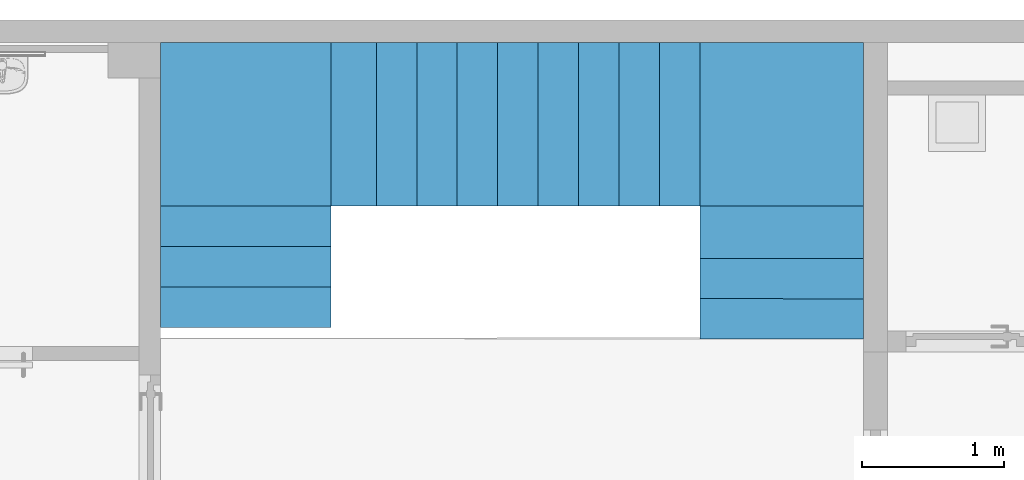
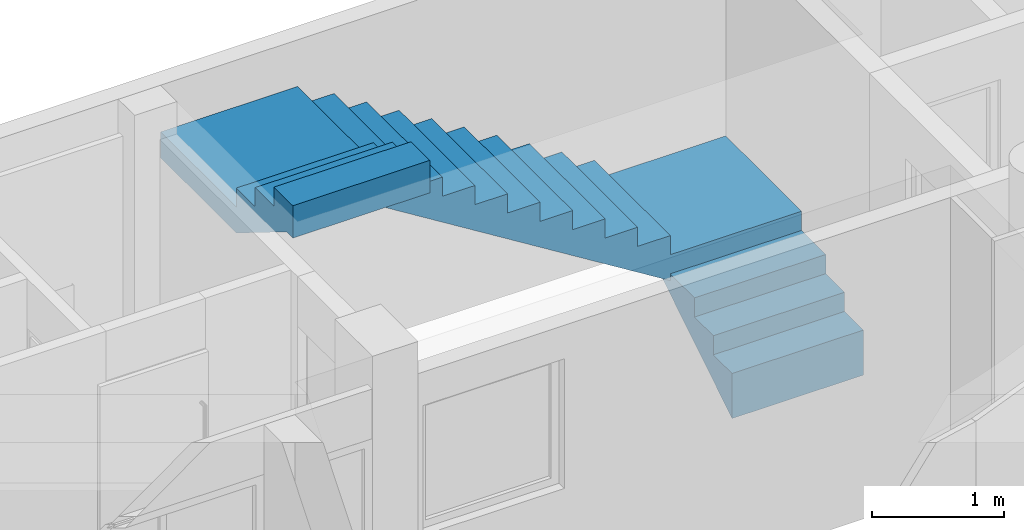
"""IFC4 building model written with IfcOpenShell, lengths in metres."""

import ifcopenshell
import ifcopenshell.guid

model = None  # the IFC model being written
_history = None  # IfcOwnerHistory: only IFC2X3 demands one
_inside = {}  # id of a spatial element -> (the spatial element, [elements in it])
_under = {}  # id of a project, library or spatial element -> (it, [spatial elements below it])
_declared = {}  # id of a project -> (the project, [libraries it declares])
_typed = {}  # id of a type object -> (the type object, [elements of that type])
_made_of = {}  # id of a material, layer set ... -> (it, [elements and type objects made of it])


def new_model(schema):
    """Start an empty IFC model of exactly this schema.

    Asked for "IFC4X3", IfcOpenShell would pick the latest addendum, in which some entities
    have other attributes; the version numbers below select the first issue.
    IFC2X3 requires an IfcOwnerHistory on every rooted entity: one is made here for all.
    """
    global model, _history
    if schema == "IFC4X3":
        model = ifcopenshell.file(schema_version=(4, 3, 0, 0))
    else:
        model = ifcopenshell.file(schema=schema)
    _inside.clear()
    _under.clear()
    _declared.clear()
    _typed.clear()
    _made_of.clear()
    _history = None
    if model.schema == "IFC2X3":
        org = make("IfcOrganization", Name="unknown")
        user = make(
            "IfcPersonAndOrganization",
            ThePerson=make("IfcPerson", FamilyName="unknown"),
            TheOrganization=org,
        )
        app = make(
            "IfcApplication",
            ApplicationDeveloper=org,
            Version="unknown",
            ApplicationFullName="unknown",
            ApplicationIdentifier="unknown",
        )
        _history = make(
            "IfcOwnerHistory",
            OwningUser=user,
            OwningApplication=app,
            ChangeAction="ADDED",
            CreationDate=0,
        )
    return model


def make(cls, **values):
    """One entity of the class cls with the attributes given. An attribute that is None is left unset."""
    return model.create_entity(
        cls, **{name: value for name, value in values.items() if value is not None}
    )


def entity(cls, *values):
    """Any entity or typed value of the class cls, its attributes in the order of the schema. None: left unset."""
    e = model.create_entity(cls)
    for i, value in enumerate(values):
        if value is not None:
            e[i] = value
    return e


def rooted(cls, **values):
    """An entity with a GlobalId (a new one), such as an element, a storey or a relation."""
    return make(cls, GlobalId=ifcopenshell.guid.new(), OwnerHistory=_history, **values)


def si_unit(unit_type, name, prefix=None):
    """IfcSIUnit, for example si_unit("LENGTHUNIT", "METRE", prefix="MILLI")."""
    return make("IfcSIUnit", UnitType=unit_type, Prefix=prefix, Name=name)


def converted_unit(unit_type, name, factor, base, dimensions=None, offset=None):
    """IfcConversionBasedUnit, such as the inch: factor (a typed value) times the base unit."""
    return make(
        "IfcConversionBasedUnit"
        if offset is None
        else "IfcConversionBasedUnitWithOffset",
        ConversionOffset=offset,
        Dimensions=None
        if dimensions is None
        else entity("IfcDimensionalExponents", *dimensions),
        UnitType=unit_type,
        Name=name,
        ConversionFactor=make(
            "IfcMeasureWithUnit", ValueComponent=factor, UnitComponent=base
        ),
    )


def derived_unit(unit_type, elements):
    """IfcDerivedUnit: a product of units, each with its exponent."""
    return make(
        "IfcDerivedUnit",
        Elements=[
            make("IfcDerivedUnitElement", Unit=unit, Exponent=power)
            for unit, power in elements
        ],
        UnitType=unit_type,
    )


def assignment(units):
    """IfcUnitAssignment: the units of a project."""
    return None if units is None else make("IfcUnitAssignment", Units=units)


def point(xyz):
    """IfcCartesianPoint."""
    return None if xyz is None else make("IfcCartesianPoint", Coordinates=xyz)


def direction(xyz):
    """IfcDirection."""
    return None if xyz is None else make("IfcDirection", DirectionRatios=xyz)


def frame(location, z_axis=None, x_axis=None):
    """IfcAxis2Placement3D, a coordinate frame: its origin and axes. An axis left out is left unset."""
    return make(
        "IfcAxis2Placement3D",
        Location=point(location),
        Axis=direction(z_axis),
        RefDirection=direction(x_axis),
    )


def origin():
    """The frame at (0, 0, 0) with its axes left unset."""
    return frame((0.0, 0.0, 0.0))


def place(relative_to, where):
    """IfcLocalPlacement: puts the frame where relative to a parent placement (None: the world)."""
    return make(
        "IfcLocalPlacement", PlacementRelTo=relative_to, RelativePlacement=where
    )


def context(
    kind, dimensions, precision=None, world=None, true_north=None, identifier=None
):
    """IfcGeometricRepresentationContext, for example the 3D "Model" context."""
    return make(
        "IfcGeometricRepresentationContext",
        ContextIdentifier=identifier,
        ContextType=kind,
        CoordinateSpaceDimension=dimensions,
        Precision=precision,
        WorldCoordinateSystem=world,
        TrueNorth=true_north,
    )


def subcontext(parent, identifier, kind, view, scale=None):
    """IfcGeometricRepresentationSubContext, for example "Body" below "Model"."""
    return make(
        "IfcGeometricRepresentationSubContext",
        ContextIdentifier=identifier,
        ContextType=kind,
        ParentContext=parent,
        TargetScale=scale,
        TargetView=view,
    )


def project(units=None, contexts=None):
    """IfcProject with its units and contexts."""
    return rooted(
        "IfcProject",
        Name="project",
        RepresentationContexts=contexts,
        UnitsInContext=assignment(units),
    )


def spatial(cls, under=None, at=None, **own):
    """A site, building, storey or space (cls), placed at a placement, below another one or the project."""
    s = rooted(cls, ObjectPlacement=at, **own)
    if under is not None:
        _under.setdefault(under.id(), (under, []))[1].append(s)
    return s


def faces_of(points, faces, orient=None, outer=None):
    """IfcFace entities. A face is a list of loops; a loop is a list of indices into points, from 0.

    orient and outer hold one flag for each loop. By default every Orientation is true, the
    first loop of a face is its IfcFaceOuterBound and the others are IfcFaceBound.
    """
    made = []
    for i, loops in enumerate(faces):
        bounds = []
        for j, loop in enumerate(loops):
            is_outer = j == 0 if outer is None else outer[i][j]
            bounds.append(
                make(
                    "IfcFaceOuterBound" if is_outer else "IfcFaceBound",
                    Bound=make("IfcPolyLoop", Polygon=[points[k] for k in loop]),
                    Orientation=True if orient is None else orient[i][j],
                )
            )
        made.append(make("IfcFace", Bounds=bounds))
    return made


def faceted_brep(points, faces, orient=None, outer=None, voids=None):
    """IfcFacetedBrep: a solid bounded by flat faces; with voids (closed shells), ...WithVoids."""
    shared = [point(p) for p in points]
    hull = make("IfcClosedShell", CfsFaces=faces_of(shared, faces, orient, outer))
    if voids is None:
        return make("IfcFacetedBrep", Outer=hull)
    return make(
        "IfcFacetedBrepWithVoids",
        Outer=hull,
        Voids=[
            make(cls, CfsFaces=faces_of(shared, fs, o, b)) for cls, fs, o, b in voids
        ],
    )


def shape(context_of_items, identifier, shape_type, items):
    """IfcShapeRepresentation: the items that make up one representation, for example the "Body"."""
    return make(
        "IfcShapeRepresentation",
        ContextOfItems=context_of_items,
        RepresentationIdentifier=identifier,
        RepresentationType=shape_type,
        Items=items,
    )


def made_of(thing, what):
    """Note that an element or type object is made of a material, layer set ...; save() writes the relation."""
    if what is not None:
        _made_of.setdefault(what.id(), (what, []))[1].append(thing)
    return thing


def element(
    cls,
    number,
    at=None,
    inside=None,
    cuts=None,
    type_object=None,
    material=None,
    context=None,
    identifier="Body",
    shape_type=None,
    held_by="IfcProductDefinitionShape",
    body=None,
    shapes=None,
    **own,
):
    """One element of the class cls, such as IfcWall. Its Tag is "e" and its number.

    at: its placement. inside: the storey or other place that contains it. cuts: it is an
    opening in that element (IfcRelVoidsElement). A single representation is given by context,
    identifier, shape_type and body (its items); several are given by shapes. held_by: the class
    of the entity that holds the representations. save() writes the other relations.
    """
    e = rooted(cls, Tag="e%d" % number, ObjectPlacement=at, **own)
    if body is not None:
        shapes = [shape(context, identifier, shape_type, body)]
    if shapes is not None:
        e.Representation = make(held_by, Representations=shapes)
    if inside is not None:
        _inside.setdefault(inside.id(), (inside, []))[1].append(e)
    if cuts is not None:
        rooted(
            "IfcRelVoidsElement", RelatingBuildingElement=cuts, RelatedOpeningElement=e
        )
    if type_object is not None:
        _typed.setdefault(type_object.id(), (type_object, []))[1].append(e)
    return made_of(e, material)


def aggregate(whole, parts):
    """IfcRelAggregates: a whole, such as a stair, and the parts it consists of."""
    return rooted("IfcRelAggregates", RelatingObject=whole, RelatedObjects=parts)


def save(model, path):
    """Write the relations noted so far, then the file.

    IfcRelAggregates (storeys below a building ...), IfcRelContainedInSpatialStructure (elements
    in a storey), IfcRelDefinesByType, IfcRelAssociatesMaterial and IfcRelDeclares: one each for
    every whole, place, type object, material and project.
    """
    for whole, parts in _under.values():
        aggregate(whole, parts)
    for where, things in _inside.values():
        rooted(
            "IfcRelContainedInSpatialStructure",
            RelatedElements=things,
            RelatingStructure=where,
        )
    for kind, things in _typed.values():
        rooted("IfcRelDefinesByType", RelatedObjects=things, RelatingType=kind)
    for what, things in _made_of.values():
        rooted("IfcRelAssociatesMaterial", RelatedObjects=things, RelatingMaterial=what)
    for by, libraries in _declared.values():
        rooted("IfcRelDeclares", RelatingContext=by, RelatedDefinitions=libraries)
    model.write(path)


model = new_model("IFC4")

# Units and contexts
model_context = context("Model", 3, precision=1e-05, world=origin())
body_context = subcontext(model_context, "Body", "Model", "MODEL_VIEW")
ifc_project = project(units=[si_unit("LENGTHUNIT", "METRE"), si_unit("AREAUNIT", "SQUARE_METRE"), si_unit("VOLUMEUNIT", "CUBIC_METRE"), si_unit("MASSUNIT", "GRAM", prefix="KILO"), converted_unit("PLANEANGLEUNIT", "DEGREE", entity("IfcPlaneAngleMeasure", 0.0174532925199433), si_unit("PLANEANGLEUNIT", "RADIAN"), dimensions=[0, 0, 0, 0, 0, 0, 0]), derived_unit("THERMALTRANSMITTANCEUNIT", [(si_unit("POWERUNIT", "WATT"), 1), (si_unit("THERMODYNAMICTEMPERATUREUNIT", "KELVIN"), -1), (si_unit("LENGTHUNIT", "METRE"), -2)]), derived_unit("VOLUMETRICFLOWRATEUNIT", [(si_unit("LENGTHUNIT", "METRE"), 3), (converted_unit("TIMEUNIT", "hour", entity("IfcTimeMeasure", 3600.0), si_unit("TIMEUNIT", "SECOND"), dimensions=[0, 0, 1, 0, 0, 0, 0]), -1), (si_unit("LENGTHUNIT", "METRE"), -1)])], contexts=[model_context])

# Building, storeys
building_placement = place(None, origin())
building = spatial("IfcBuilding", under=ifc_project, at=building_placement, Name="HABITATGE PLURIFAMILIAR", CompositionType="ELEMENT")
storey_1_placement = place(building_placement, frame((0.0, 0.0, 15.28)))
storey_1 = spatial("IfcBuildingStorey", under=building, at=storey_1_placement, Name="PLANTA QUARTA", CompositionType="ELEMENT", Elevation=15.28)
storey_2_placement = place(storey_1_placement, frame((0.0, 0.0, 12.27)))
storey_2 = spatial("IfcBuildingStorey", under=storey_1, at=storey_2_placement, Name="NOU", CompositionType="PARTIAL")

# Stair
stair_placement = place(storey_2_placement, frame((410.827766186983, 25.9803256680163, -12.5100648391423)))
element("IfcStair", 1, at=stair_placement, inside=storey_2, Name="Escala P4", PredefinedType="NOTDEFINED", context=body_context, shape_type="Brep", body=[
    faceted_brep([(3.79890759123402, 0.000171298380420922, 0.377123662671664), (3.79890759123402, 0.000171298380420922, 0.417123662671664), (4.94890757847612, 0.0, 0.417123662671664), (4.94890757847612, 0.0, 0.377123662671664), (4.94895003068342, 0.284999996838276, 0.417123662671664), (4.94895003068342, 0.284999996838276, 0.377123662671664), (3.79895004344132, 0.285171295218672, 0.417123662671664), (3.79895004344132, 0.285171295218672, 0.377123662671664)], [[[0, 1, 2, 3]], [[3, 2, 4, 5]], [[5, 4, 6, 7]], [[7, 6, 1, 0]], [[0, 3, 5, 7]], [[1, 6, 4, 2]]], orient=[[False], [False], [False], [False], [False], [False]]),
    faceted_brep([(3.79895004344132, 0.285171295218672, 0.554182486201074), (3.79895004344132, 0.285171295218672, 0.594182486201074), (4.94895003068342, 0.284999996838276, 0.594182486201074), (4.94895003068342, 0.284999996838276, 0.554182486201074), (4.94899248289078, 0.569999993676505, 0.594182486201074), (4.94899248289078, 0.569999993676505, 0.554182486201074), (3.79899249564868, 0.570171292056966, 0.594182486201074), (3.79899249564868, 0.570171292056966, 0.554182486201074)], [[[0, 1, 2, 3]], [[3, 2, 4, 5]], [[5, 4, 6, 7]], [[7, 6, 1, 0]], [[0, 3, 5, 7]], [[1, 6, 4, 2]]], orient=[[False], [False], [False], [False], [False], [False]]),
    faceted_brep([(3.79899249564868, 0.570171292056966, 0.731241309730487), (3.79899249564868, 0.570171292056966, 0.771241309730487), (4.94899248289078, 0.569999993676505, 0.771241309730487), (4.94899248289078, 0.569999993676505, 0.731241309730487), (4.9490472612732, 0.937750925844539, 0.771241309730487), (4.9490472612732, 0.937750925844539, 0.731241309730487), (3.79904727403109, 0.937922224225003, 0.771241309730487), (3.79904727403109, 0.937922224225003, 0.731241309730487)], [[[0, 1, 2, 3]], [[3, 2, 4, 5]], [[5, 4, 6, 7]], [[7, 6, 1, 0]], [[0, 3, 5, 7]], [[1, 6, 4, 2]]], orient=[[False], [False], [False], [False], [False], [False]]),
    faceted_brep([(4.9490472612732, 0.937750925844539, 0.731241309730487), (4.94899248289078, 0.569999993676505, 0.731241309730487), (3.79899249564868, 0.570171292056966, 0.731241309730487), (3.79904727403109, 0.937922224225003, 0.731241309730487), (4.94890757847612, 0.0, 0.0), (4.94890757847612, 0.0, 0.377123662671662), (4.94895003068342, 0.284999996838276, 0.377123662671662), (4.94895003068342, 0.284999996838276, 0.554182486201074), (4.94899248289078, 0.569999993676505, 0.554182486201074), (4.9490472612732, 0.937750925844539, 0.708300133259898), (4.94907740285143, 1.14010435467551, 0.708300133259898), (3.79899249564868, 0.570171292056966, 0.554182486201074), (3.79907741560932, 1.14027565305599, 0.708300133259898), (3.79904727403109, 0.937922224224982, 0.708300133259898), (3.79895004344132, 0.285171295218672, 0.554182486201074), (3.79895004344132, 0.285171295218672, 0.377123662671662), (3.79890759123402, 0.000171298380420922, 0.377123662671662), (3.79890759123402, 0.000171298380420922, 0.0)], [[[0, 1, 2, 3]], [[4, 5, 6, 7, 8, 1, 0, 9, 10]], [[1, 8, 11, 2]], [[12, 13, 3, 2, 11, 14, 15, 16, 17]], [[12, 17, 4, 10]], [[13, 12, 10, 9]], [[8, 7, 14, 11]], [[7, 6, 15, 14]], [[6, 5, 16, 15]], [[5, 4, 17, 16]], [[13, 9, 0, 3]]], orient=[[False], [False], [False], [False], [False], [False], [False], [False], [False], [False], [False]]),
    faceted_brep([(3.79904727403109, 0.937922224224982, 0.908300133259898), (3.79904727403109, 0.937922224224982, 0.948300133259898), (4.9490472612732, 0.937750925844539, 0.948300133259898), (4.9490472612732, 0.937750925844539, 0.908300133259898), (4.94921858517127, 2.08792222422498, 0.948300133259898), (4.94921858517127, 2.08792222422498, 0.908300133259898), (3.79904727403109, 2.08792222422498, 0.948300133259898), (3.79904727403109, 2.08792222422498, 0.908300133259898)], [[[0, 1, 2, 3]], [[3, 2, 4, 5]], [[5, 4, 6, 7]], [[7, 6, 1, 0]], [[0, 3, 5, 7]], [[1, 6, 4, 2]]], orient=[[False], [False], [False], [False], [False], [False]]),
    faceted_brep([(3.79904727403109, 0.937922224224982, 0.708300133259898), (3.79904727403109, 0.937922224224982, 0.908300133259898), (4.9490472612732, 0.937750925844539, 0.908300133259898), (4.9490472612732, 0.937750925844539, 0.708300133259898), (4.94921858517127, 2.08792222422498, 0.908300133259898), (4.94921858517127, 2.08792222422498, 0.708300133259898), (3.79904727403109, 2.08792222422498, 0.908300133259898), (3.79904727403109, 2.08792222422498, 0.708300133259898)], [[[0, 1, 2, 3]], [[3, 2, 4, 5]], [[5, 4, 6, 7]], [[7, 6, 1, 0]], [[0, 3, 5, 7]], [[1, 6, 4, 2]]], orient=[[False], [False], [False], [False], [False], [False]]),
    faceted_brep([(3.79904727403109, 0.937922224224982, 1.08535895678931), (3.79904727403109, 0.937922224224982, 1.12535895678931), (3.79904727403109, 2.08792222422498, 1.12535895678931), (3.79904727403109, 2.08792222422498, 1.08535895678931), (3.51404727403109, 2.08792222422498, 1.12535895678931), (3.51404727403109, 2.08792222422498, 1.08535895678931), (3.51404727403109, 0.937922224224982, 1.12535895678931), (3.51404727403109, 0.937922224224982, 1.08535895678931)], [[[0, 1, 2, 3]], [[3, 2, 4, 5]], [[5, 4, 6, 7]], [[7, 6, 1, 0]], [[0, 3, 5, 7]], [[1, 6, 4, 2]]], orient=[[False], [False], [False], [False], [False], [False]]),
    faceted_brep([(3.51404727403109, 0.937922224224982, 1.26241778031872), (3.51404727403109, 0.937922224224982, 1.30241778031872), (3.51404727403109, 2.08792222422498, 1.30241778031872), (3.51404727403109, 2.08792222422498, 1.26241778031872), (3.22904727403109, 2.08792222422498, 1.30241778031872), (3.22904727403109, 2.08792222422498, 1.26241778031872), (3.22904727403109, 0.937922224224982, 1.30241778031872), (3.22904727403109, 0.937922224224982, 1.26241778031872)], [[[0, 1, 2, 3]], [[3, 2, 4, 5]], [[5, 4, 6, 7]], [[7, 6, 1, 0]], [[0, 3, 5, 7]], [[1, 6, 4, 2]]], orient=[[False], [False], [False], [False], [False], [False]]),
    faceted_brep([(3.22904727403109, 0.937922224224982, 1.43947660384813), (3.22904727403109, 0.937922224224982, 1.47947660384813), (3.22904727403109, 2.08792222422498, 1.47947660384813), (3.22904727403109, 2.08792222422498, 1.43947660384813), (2.94404727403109, 2.08792222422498, 1.47947660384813), (2.94404727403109, 2.08792222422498, 1.43947660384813), (2.94404727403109, 0.937922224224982, 1.47947660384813), (2.94404727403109, 0.937922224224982, 1.43947660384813)], [[[0, 1, 2, 3]], [[3, 2, 4, 5]], [[5, 4, 6, 7]], [[7, 6, 1, 0]], [[0, 3, 5, 7]], [[1, 6, 4, 2]]], orient=[[False], [False], [False], [False], [False], [False]]),
    faceted_brep([(2.94404727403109, 0.937922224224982, 1.61653542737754), (2.94404727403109, 0.937922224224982, 1.65653542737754), (2.94404727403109, 2.08792222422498, 1.65653542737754), (2.94404727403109, 2.08792222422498, 1.61653542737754), (2.65904727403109, 2.08792222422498, 1.65653542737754), (2.65904727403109, 2.08792222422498, 1.61653542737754), (2.65904727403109, 0.937922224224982, 1.65653542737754), (2.65904727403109, 0.937922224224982, 1.61653542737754)], [[[0, 1, 2, 3]], [[3, 2, 4, 5]], [[5, 4, 6, 7]], [[7, 6, 1, 0]], [[0, 3, 5, 7]], [[1, 6, 4, 2]]], orient=[[False], [False], [False], [False], [False], [False]]),
    faceted_brep([(2.65904727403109, 0.937922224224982, 1.79359425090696), (2.65904727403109, 0.937922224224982, 1.83359425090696), (2.65904727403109, 2.08792222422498, 1.83359425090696), (2.65904727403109, 2.08792222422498, 1.79359425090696), (2.37404727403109, 2.08792222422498, 1.83359425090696), (2.37404727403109, 2.08792222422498, 1.79359425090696), (2.37404727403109, 0.937922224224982, 1.83359425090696), (2.37404727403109, 0.937922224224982, 1.79359425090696)], [[[0, 1, 2, 3]], [[3, 2, 4, 5]], [[5, 4, 6, 7]], [[7, 6, 1, 0]], [[0, 3, 5, 7]], [[1, 6, 4, 2]]], orient=[[False], [False], [False], [False], [False], [False]]),
    faceted_brep([(2.37404727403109, 0.937922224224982, 1.97065307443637), (2.37404727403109, 0.937922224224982, 2.01065307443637), (2.37404727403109, 2.08792222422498, 2.01065307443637), (2.37404727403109, 2.08792222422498, 1.97065307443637), (2.08904727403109, 2.08792222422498, 2.01065307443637), (2.08904727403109, 2.08792222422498, 1.97065307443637), (2.08904727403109, 0.937922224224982, 2.01065307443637), (2.08904727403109, 0.937922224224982, 1.97065307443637)], [[[0, 1, 2, 3]], [[3, 2, 4, 5]], [[5, 4, 6, 7]], [[7, 6, 1, 0]], [[0, 3, 5, 7]], [[1, 6, 4, 2]]], orient=[[False], [False], [False], [False], [False], [False]]),
    faceted_brep([(2.08904727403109, 0.937922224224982, 2.14771189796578), (2.08904727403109, 0.937922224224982, 2.18771189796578), (2.08904727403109, 2.08792222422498, 2.18771189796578), (2.08904727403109, 2.08792222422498, 2.14771189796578), (1.80404727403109, 2.08792222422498, 2.18771189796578), (1.80404727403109, 2.08792222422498, 2.14771189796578), (1.80404727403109, 0.937922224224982, 2.18771189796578), (1.80404727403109, 0.937922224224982, 2.14771189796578)], [[[0, 1, 2, 3]], [[3, 2, 4, 5]], [[5, 4, 6, 7]], [[7, 6, 1, 0]], [[0, 3, 5, 7]], [[1, 6, 4, 2]]], orient=[[False], [False], [False], [False], [False], [False]]),
    faceted_brep([(1.80404727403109, 0.937922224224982, 2.32477072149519), (1.80404727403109, 0.937922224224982, 2.36477072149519), (1.80404727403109, 2.08792222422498, 2.36477072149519), (1.80404727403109, 2.08792222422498, 2.32477072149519), (1.51904727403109, 2.08792222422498, 2.36477072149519), (1.51904727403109, 2.08792222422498, 2.32477072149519), (1.51904727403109, 0.937922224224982, 2.36477072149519), (1.51904727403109, 0.937922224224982, 2.32477072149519)], [[[0, 1, 2, 3]], [[3, 2, 4, 5]], [[5, 4, 6, 7]], [[7, 6, 1, 0]], [[0, 3, 5, 7]], [[1, 6, 4, 2]]], orient=[[False], [False], [False], [False], [False], [False]]),
    faceted_brep([(1.51904727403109, 0.937922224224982, 2.5018295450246), (1.51904727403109, 0.937922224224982, 2.5418295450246), (1.51904727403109, 2.08792222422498, 2.5418295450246), (1.51904727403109, 2.08792222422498, 2.5018295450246), (1.19984509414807, 2.08792222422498, 2.5418295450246), (1.19984509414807, 2.08792222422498, 2.5018295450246), (1.19984509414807, 0.937922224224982, 2.5418295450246), (1.19984509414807, 0.937922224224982, 2.5018295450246)], [[[0, 1, 2, 3]], [[3, 2, 4, 5]], [[5, 4, 6, 7]], [[7, 6, 1, 0]], [[0, 3, 5, 7]], [[1, 6, 4, 2]]], orient=[[False], [False], [False], [False], [False], [False]]),
    faceted_brep([(1.19984509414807, 2.08792222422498, 2.5018295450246), (1.51904727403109, 2.08792222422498, 2.5018295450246), (1.51904727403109, 0.937922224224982, 2.5018295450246), (1.19984509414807, 0.937922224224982, 2.5018295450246), (3.79904727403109, 2.08792222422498, 0.708300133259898), (3.79904727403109, 2.08792222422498, 1.08535895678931), (3.51404727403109, 2.08792222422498, 1.08535895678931), (3.51404727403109, 2.08792222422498, 1.26241778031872), (3.22904727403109, 2.08792222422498, 1.26241778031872), (3.22904727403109, 2.08792222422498, 1.43947660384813), (2.94404727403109, 2.08792222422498, 1.43947660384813), (2.94404727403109, 2.08792222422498, 1.61653542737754), (2.65904727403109, 2.08792222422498, 1.61653542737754), (2.65904727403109, 2.08792222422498, 1.79359425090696), (2.37404727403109, 2.08792222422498, 1.79359425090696), (2.37404727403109, 2.08792222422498, 1.97065307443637), (2.08904727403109, 2.08792222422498, 1.97065307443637), (2.08904727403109, 2.08792222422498, 2.14771189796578), (1.80404727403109, 2.08792222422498, 2.14771189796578), (1.80404727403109, 2.08792222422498, 2.32477072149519), (1.51904727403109, 2.08792222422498, 2.32477072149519), (1.19984509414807, 2.08792222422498, 2.47888836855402), (0.948942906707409, 2.08792222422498, 2.47888836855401), (3.79894290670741, 2.08792222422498, 0.708300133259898), (1.51904727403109, 0.937922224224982, 2.32477072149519), (3.79894290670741, 0.937922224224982, 0.708300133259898), (0.948942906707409, 0.937922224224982, 2.47888836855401), (1.19984509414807, 0.937922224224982, 2.47888836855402), (1.80404727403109, 0.937922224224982, 2.32477072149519), (1.80404727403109, 0.937922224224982, 2.14771189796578), (2.08904727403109, 0.937922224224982, 2.14771189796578), (2.08904727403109, 0.937922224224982, 1.97065307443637), (2.37404727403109, 0.937922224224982, 1.97065307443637), (2.37404727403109, 0.937922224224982, 1.79359425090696), (2.65904727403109, 0.937922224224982, 1.79359425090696), (2.65904727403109, 0.937922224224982, 1.61653542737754), (2.94404727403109, 0.937922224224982, 1.61653542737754), (2.94404727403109, 0.937922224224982, 1.43947660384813), (3.22904727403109, 0.937922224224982, 1.43947660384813), (3.22904727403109, 0.937922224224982, 1.26241778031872), (3.51404727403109, 0.937922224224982, 1.26241778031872), (3.51404727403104, 0.937922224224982, 1.08535895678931), (3.79904727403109, 0.937922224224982, 1.08535895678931), (3.79904727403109, 0.937922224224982, 0.708300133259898)], [[[0, 1, 2, 3]], [[4, 5, 6, 7, 8, 9, 10, 11, 12, 13, 14, 15, 16, 17, 18, 19, 20, 1, 0, 21, 22, 23]], [[1, 20, 24, 2]], [[25, 26, 27, 3, 2, 24, 28, 29, 30, 31, 32, 33, 34, 35, 36, 37, 38, 39, 40, 41, 42, 43]], [[4, 23, 25, 43]], [[26, 25, 23, 22]], [[27, 26, 22, 21]], [[20, 19, 28, 24]], [[19, 18, 29, 28]], [[18, 17, 30, 29]], [[17, 16, 31, 30]], [[16, 15, 32, 31]], [[15, 14, 33, 32]], [[14, 13, 34, 33]], [[13, 12, 35, 34]], [[12, 11, 36, 35]], [[11, 10, 37, 36]], [[10, 9, 38, 37]], [[9, 8, 39, 38]], [[8, 7, 40, 39]], [[7, 6, 41, 40]], [[6, 5, 42, 41]], [[5, 4, 43, 42]], [[27, 21, 0, 3]]], orient=[[False], [False], [False], [False], [False], [False], [False], [False], [False], [False], [False], [False], [False], [False], [False], [False], [False], [False], [False], [False], [False], [False], [False], [False]]),
    faceted_brep([(1.19984509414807, 0.937922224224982, 2.67888836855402), (1.19984509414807, 0.937922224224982, 2.71888836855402), (1.19984509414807, 2.08792222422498, 2.71888836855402), (1.19984509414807, 2.08792222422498, 2.67888836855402), (0.0, 2.08792222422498, 2.71888836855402), (0.0, 2.08792222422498, 2.67888836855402), (0.0, 0.937922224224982, 2.71888836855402), (0.0, 0.937922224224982, 2.67888836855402)], [[[0, 1, 2, 3]], [[3, 2, 4, 5]], [[5, 4, 6, 7]], [[7, 6, 1, 0]], [[0, 3, 5, 7]], [[1, 6, 4, 2]]], orient=[[False], [False], [False], [False], [False], [False]]),
    faceted_brep([(1.19984509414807, 0.937922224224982, 2.47888836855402), (1.19984509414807, 0.937922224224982, 2.67888836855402), (1.19984509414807, 2.08792222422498, 2.67888836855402), (1.19984509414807, 2.08792222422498, 2.47888836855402), (0.0, 2.08792222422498, 2.67888836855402), (0.0, 2.08792222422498, 2.47888836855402), (0.0, 0.937922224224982, 2.67888836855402), (0.0, 0.937922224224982, 2.47888836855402)], [[[0, 1, 2, 3]], [[3, 2, 4, 5]], [[5, 4, 6, 7]], [[7, 6, 1, 0]], [[0, 3, 5, 7]], [[1, 6, 4, 2]]], orient=[[False], [False], [False], [False], [False], [False]]),
    faceted_brep([(1.19984509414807, 0.937922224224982, 2.85594719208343), (1.19984509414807, 0.937922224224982, 2.89594719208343), (0.0, 0.937922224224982, 2.89594719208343), (0.0, 0.937922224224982, 2.85594719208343), (0.0, 0.652922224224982, 2.89594719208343), (0.0, 0.652922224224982, 2.85594719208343), (1.19984509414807, 0.652922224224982, 2.89594719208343), (1.19984509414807, 0.652922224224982, 2.85594719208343)], [[[0, 1, 2, 3]], [[3, 2, 4, 5]], [[5, 4, 6, 7]], [[7, 6, 1, 0]], [[0, 3, 5, 7]], [[1, 6, 4, 2]]], orient=[[False], [False], [False], [False], [False], [False]]),
    faceted_brep([(1.19984509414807, 0.652922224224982, 3.03300601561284), (1.19984509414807, 0.652922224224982, 3.07300601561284), (0.0, 0.652922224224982, 3.07300601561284), (0.0, 0.652922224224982, 3.03300601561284), (0.0, 0.367922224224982, 3.07300601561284), (0.0, 0.367922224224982, 3.03300601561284), (1.19984509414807, 0.367922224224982, 3.07300601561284), (1.19984509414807, 0.367922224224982, 3.03300601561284)], [[[0, 1, 2, 3]], [[3, 2, 4, 5]], [[5, 4, 6, 7]], [[7, 6, 1, 0]], [[0, 3, 5, 7]], [[1, 6, 4, 2]]], orient=[[False], [False], [False], [False], [False], [False]]),
    faceted_brep([(1.19984509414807, 0.367922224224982, 3.21006483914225), (1.19984509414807, 0.367922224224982, 3.25006483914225), (0.0, 0.367922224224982, 3.25006483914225), (0.0, 0.367922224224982, 3.21006483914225), (0.0, 0.0829222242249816, 3.25006483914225), (0.0, 0.0829222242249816, 3.21006483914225), (1.19984509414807, 0.0829222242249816, 3.25006483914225), (1.19984509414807, 0.0829222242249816, 3.21006483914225)], [[[0, 1, 2, 3]], [[3, 2, 4, 5]], [[5, 4, 6, 7]], [[7, 6, 1, 0]], [[0, 3, 5, 7]], [[1, 6, 4, 2]]], orient=[[False], [False], [False], [False], [False], [False]]),
    faceted_brep([(0.0, 0.0829222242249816, 3.21006483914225), (0.0, 0.367922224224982, 3.21006483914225), (1.19984509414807, 0.367922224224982, 3.21006483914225), (1.19984509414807, 0.0829222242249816, 3.21006483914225), (0.0, 0.937922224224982, 2.47888836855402), (0.0, 0.937922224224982, 2.85594719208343), (0.0, 0.652922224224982, 2.85594719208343), (0.0, 0.652922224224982, 3.03300601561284), (0.0, 0.367922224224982, 3.03300601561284), (0.0, 0.0829222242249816, 2.95006483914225), (0.0, 0.179395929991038, 2.95006483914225), (0.0, 0.937817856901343, 2.47888836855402), (1.19984509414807, 0.367922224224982, 3.03300601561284), (1.19984509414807, 0.937817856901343, 2.47888836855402), (1.19984509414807, 0.179395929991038, 2.95006483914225), (1.19984509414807, 0.0829222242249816, 2.95006483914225), (1.19984509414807, 0.652922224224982, 3.03300601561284), (1.19984509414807, 0.652922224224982, 2.85594719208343), (1.19984509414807, 0.937922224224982, 2.85594719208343), (1.19984509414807, 0.937922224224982, 2.47888836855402)], [[[0, 1, 2, 3]], [[4, 5, 6, 7, 8, 1, 0, 9, 10, 11]], [[1, 8, 12, 2]], [[13, 14, 15, 3, 2, 12, 16, 17, 18, 19]], [[4, 11, 13, 19]], [[14, 13, 11, 10]], [[15, 14, 10, 9]], [[8, 7, 16, 12]], [[7, 6, 17, 16]], [[6, 5, 18, 17]], [[5, 4, 19, 18]], [[15, 9, 0, 3]]], orient=[[False], [False], [False], [False], [False], [False], [False], [False], [False], [False], [False], [False]]),
])

save(model, "model.ifc")
